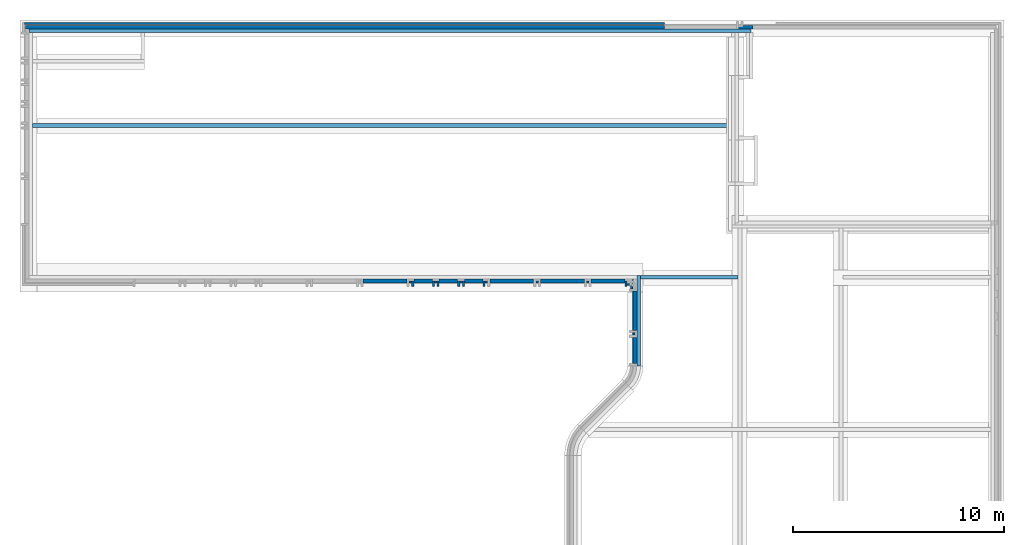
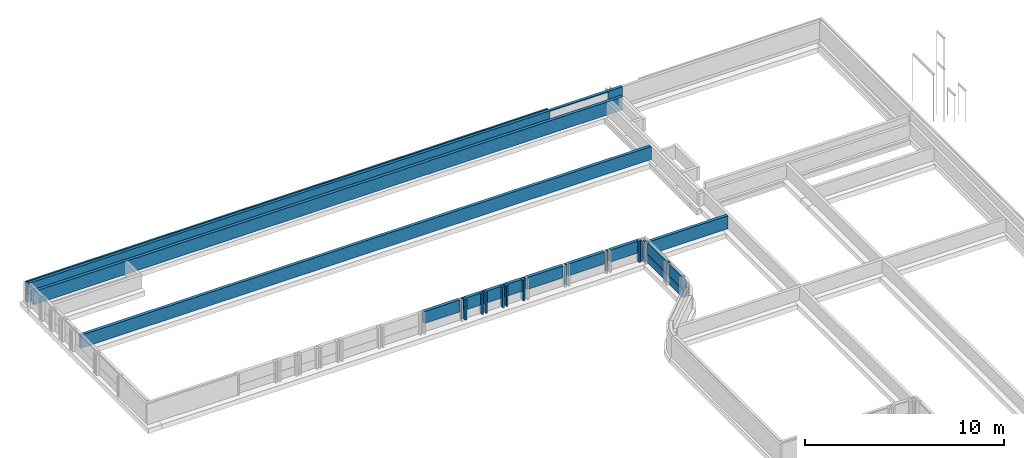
# One storey, part 7 of 15: 32 walls, 2 openings.
"""IFC2X3 building model written with IfcOpenShell, lengths in millimetres."""

import ifcopenshell
import ifcopenshell.guid

model = None  # the IFC model being written
_history = None  # IfcOwnerHistory: only IFC2X3 demands one
_inside = {}  # id of a spatial element -> (the spatial element, [elements in it])
_under = {}  # id of a project, library or spatial element -> (it, [spatial elements below it])
_declared = {}  # id of a project -> (the project, [libraries it declares])
_typed = {}  # id of a type object -> (the type object, [elements of that type])
_made_of = {}  # id of a material, layer set ... -> (it, [elements and type objects made of it])


def new_model(schema):
    """Start an empty IFC model of exactly this schema.

    Asked for "IFC4X3", IfcOpenShell would pick the latest addendum, in which some entities
    have other attributes; the version numbers below select the first issue.
    IFC2X3 requires an IfcOwnerHistory on every rooted entity: one is made here for all.
    """
    global model, _history
    if schema == "IFC4X3":
        model = ifcopenshell.file(schema_version=(4, 3, 0, 0))
    else:
        model = ifcopenshell.file(schema=schema)
    _inside.clear()
    _under.clear()
    _declared.clear()
    _typed.clear()
    _made_of.clear()
    _history = None
    if model.schema == "IFC2X3":
        org = make("IfcOrganization", Name="unknown")
        user = make(
            "IfcPersonAndOrganization",
            ThePerson=make("IfcPerson", FamilyName="unknown"),
            TheOrganization=org,
        )
        app = make(
            "IfcApplication",
            ApplicationDeveloper=org,
            Version="unknown",
            ApplicationFullName="unknown",
            ApplicationIdentifier="unknown",
        )
        _history = make(
            "IfcOwnerHistory",
            OwningUser=user,
            OwningApplication=app,
            ChangeAction="ADDED",
            CreationDate=0,
        )
    return model


def make(cls, **values):
    """One entity of the class cls with the attributes given. An attribute that is None is left unset."""
    return model.create_entity(
        cls, **{name: value for name, value in values.items() if value is not None}
    )


def entity(cls, *values):
    """Any entity or typed value of the class cls, its attributes in the order of the schema. None: left unset."""
    e = model.create_entity(cls)
    for i, value in enumerate(values):
        if value is not None:
            e[i] = value
    return e


def rooted(cls, **values):
    """An entity with a GlobalId (a new one), such as an element, a storey or a relation."""
    return make(cls, GlobalId=ifcopenshell.guid.new(), OwnerHistory=_history, **values)


def si_unit(unit_type, name, prefix=None):
    """IfcSIUnit, for example si_unit("LENGTHUNIT", "METRE", prefix="MILLI")."""
    return make("IfcSIUnit", UnitType=unit_type, Prefix=prefix, Name=name)


def converted_unit(unit_type, name, factor, base, dimensions=None, offset=None):
    """IfcConversionBasedUnit, such as the inch: factor (a typed value) times the base unit."""
    return make(
        "IfcConversionBasedUnit"
        if offset is None
        else "IfcConversionBasedUnitWithOffset",
        ConversionOffset=offset,
        Dimensions=None
        if dimensions is None
        else entity("IfcDimensionalExponents", *dimensions),
        UnitType=unit_type,
        Name=name,
        ConversionFactor=make(
            "IfcMeasureWithUnit", ValueComponent=factor, UnitComponent=base
        ),
    )


def derived_unit(unit_type, elements):
    """IfcDerivedUnit: a product of units, each with its exponent."""
    return make(
        "IfcDerivedUnit",
        Elements=[
            make("IfcDerivedUnitElement", Unit=unit, Exponent=power)
            for unit, power in elements
        ],
        UnitType=unit_type,
    )


def assignment(units):
    """IfcUnitAssignment: the units of a project."""
    return None if units is None else make("IfcUnitAssignment", Units=units)


def point(xyz):
    """IfcCartesianPoint."""
    return None if xyz is None else make("IfcCartesianPoint", Coordinates=xyz)


def direction(xyz):
    """IfcDirection."""
    return None if xyz is None else make("IfcDirection", DirectionRatios=xyz)


def frame(location, z_axis=None, x_axis=None):
    """IfcAxis2Placement3D, a coordinate frame: its origin and axes. An axis left out is left unset."""
    return make(
        "IfcAxis2Placement3D",
        Location=point(location),
        Axis=direction(z_axis),
        RefDirection=direction(x_axis),
    )


def frame_2d(location, x_axis=None):
    """IfcAxis2Placement2D, a coordinate frame in the plane: its origin and x axis."""
    return make(
        "IfcAxis2Placement2D", Location=point(location), RefDirection=direction(x_axis)
    )


def origin():
    """The frame at (0, 0, 0) with its axes left unset."""
    return frame((0.0, 0.0, 0.0))


def origin_2d_with_axis():
    """The frame at (0, 0) in the plane with the x axis (1, 0) written out."""
    return frame_2d((0.0, 0.0), x_axis=(1.0, 0.0))


def place(relative_to, where):
    """IfcLocalPlacement: puts the frame where relative to a parent placement (None: the world)."""
    return make(
        "IfcLocalPlacement", PlacementRelTo=relative_to, RelativePlacement=where
    )


def context(
    kind, dimensions, precision=None, world=None, true_north=None, identifier=None
):
    """IfcGeometricRepresentationContext, for example the 3D "Model" context."""
    return make(
        "IfcGeometricRepresentationContext",
        ContextIdentifier=identifier,
        ContextType=kind,
        CoordinateSpaceDimension=dimensions,
        Precision=precision,
        WorldCoordinateSystem=world,
        TrueNorth=true_north,
    )


def subcontext(parent, identifier, kind, view, scale=None):
    """IfcGeometricRepresentationSubContext, for example "Body" below "Model"."""
    return make(
        "IfcGeometricRepresentationSubContext",
        ContextIdentifier=identifier,
        ContextType=kind,
        ParentContext=parent,
        TargetScale=scale,
        TargetView=view,
    )


def project(units=None, contexts=None):
    """IfcProject with its units and contexts."""
    return rooted(
        "IfcProject",
        Name="project",
        RepresentationContexts=contexts,
        UnitsInContext=assignment(units),
    )


def spatial(cls, under=None, at=None, **own):
    """A site, building, storey or space (cls), placed at a placement, below another one or the project."""
    s = rooted(cls, ObjectPlacement=at, **own)
    if under is not None:
        _under.setdefault(under.id(), (under, []))[1].append(s)
    return s


def profile(cls, at=None, kind="AREA", **sizes):
    """A parametric profile (cls). Its sizes go by their IFC names, for example OverallWidth=200.0."""
    return make(cls, ProfileType=kind, Position=at, **sizes)


def rectangle(**sizes):
    """IfcRectangleProfileDef."""
    return profile("IfcRectangleProfileDef", **sizes)


def extrude(swept, where, along, depth):
    """IfcExtrudedAreaSolid: the profile swept, set in the frame where, extruded along a direction by depth."""
    return make(
        "IfcExtrudedAreaSolid",
        SweptArea=swept,
        Position=where,
        ExtrudedDirection=direction(along),
        Depth=depth,
    )


def shape(context_of_items, identifier, shape_type, items):
    """IfcShapeRepresentation: the items that make up one representation, for example the "Body"."""
    return make(
        "IfcShapeRepresentation",
        ContextOfItems=context_of_items,
        RepresentationIdentifier=identifier,
        RepresentationType=shape_type,
        Items=items,
    )


def material(Name=None, Category=None):
    """IfcMaterial."""
    return make("IfcMaterial", Name=Name, Category=Category)


def layer(
    of_material, thickness, ventilated=None, Name=None, Category=None, Priority=None
):
    """IfcMaterialLayer: one layer of a wall or slab, of a material (None: an air gap)."""
    return make(
        "IfcMaterialLayer",
        Material=of_material,
        LayerThickness=thickness,
        IsVentilated=ventilated,
        Name=Name,
        Category=Category,
        Priority=Priority,
    )


def layer_set(layers, Name=None):
    """IfcMaterialLayerSet."""
    return make("IfcMaterialLayerSet", MaterialLayers=layers, LayerSetName=Name)


def layer_usage(for_layer_set, set_direction, sense, offset, extent=None):
    """IfcMaterialLayerSetUsage: how a layer set lies in its element."""
    return make(
        "IfcMaterialLayerSetUsage",
        ForLayerSet=for_layer_set,
        LayerSetDirection=set_direction,
        DirectionSense=sense,
        OffsetFromReferenceLine=offset,
        ReferenceExtent=extent,
    )


def made_of(thing, what):
    """Note that an element or type object is made of a material, layer set ...; save() writes the relation."""
    if what is not None:
        _made_of.setdefault(what.id(), (what, []))[1].append(thing)
    return thing


def type_object(cls, material=None, **own):
    """A type object (cls), such as IfcWallType, which elements share."""
    return made_of(rooted(cls, **own), material)


def element(
    cls,
    number,
    at=None,
    inside=None,
    cuts=None,
    type_object=None,
    material=None,
    context=None,
    identifier="Body",
    shape_type=None,
    held_by="IfcProductDefinitionShape",
    body=None,
    shapes=None,
    **own,
):
    """One element of the class cls, such as IfcWall. Its Tag is "e" and its number.

    at: its placement. inside: the storey or other place that contains it. cuts: it is an
    opening in that element (IfcRelVoidsElement). A single representation is given by context,
    identifier, shape_type and body (its items); several are given by shapes. held_by: the class
    of the entity that holds the representations. save() writes the other relations.
    """
    e = rooted(cls, Tag="e%d" % number, ObjectPlacement=at, **own)
    if body is not None:
        shapes = [shape(context, identifier, shape_type, body)]
    if shapes is not None:
        e.Representation = make(held_by, Representations=shapes)
    if inside is not None:
        _inside.setdefault(inside.id(), (inside, []))[1].append(e)
    if cuts is not None:
        rooted(
            "IfcRelVoidsElement", RelatingBuildingElement=cuts, RelatedOpeningElement=e
        )
    if type_object is not None:
        _typed.setdefault(type_object.id(), (type_object, []))[1].append(e)
    return made_of(e, material)


def aggregate(whole, parts):
    """IfcRelAggregates: a whole, such as a stair, and the parts it consists of."""
    return rooted("IfcRelAggregates", RelatingObject=whole, RelatedObjects=parts)


def save(model, path):
    """Write the relations noted so far, then the file.

    IfcRelAggregates (storeys below a building ...), IfcRelContainedInSpatialStructure (elements
    in a storey), IfcRelDefinesByType, IfcRelAssociatesMaterial and IfcRelDeclares: one each for
    every whole, place, type object, material and project.
    """
    for whole, parts in _under.values():
        aggregate(whole, parts)
    for where, things in _inside.values():
        rooted(
            "IfcRelContainedInSpatialStructure",
            RelatedElements=things,
            RelatingStructure=where,
        )
    for kind, things in _typed.values():
        rooted("IfcRelDefinesByType", RelatedObjects=things, RelatingType=kind)
    for what, things in _made_of.values():
        rooted("IfcRelAssociatesMaterial", RelatedObjects=things, RelatingMaterial=what)
    for by, libraries in _declared.values():
        rooted("IfcRelDeclares", RelatingContext=by, RelatedDefinitions=libraries)
    model.write(path)


model = new_model("IFC2X3")

# Units and contexts
model_context = context("Model", 3, precision=0.01, world=origin(), true_north=direction((6.123031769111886e-17, 1.0)))
body_context = subcontext(model_context, "Body", "Model", "MODEL_VIEW")
ifc_project = project(units=[si_unit("LENGTHUNIT", "METRE", prefix="MILLI"), si_unit("AREAUNIT", "SQUARE_METRE"), si_unit("VOLUMEUNIT", "CUBIC_METRE"), converted_unit("PLANEANGLEUNIT", "DEGREE", entity("IfcRatioMeasure", 0.017453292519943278), si_unit("PLANEANGLEUNIT", "RADIAN"), dimensions=[0, 0, 0, 0, 0, 0, 0]), si_unit("MASSUNIT", "GRAM", prefix="KILO"), derived_unit("MASSDENSITYUNIT", [(si_unit("MASSUNIT", "GRAM", prefix="KILO"), 1), (si_unit("LENGTHUNIT", "METRE"), -3)]), derived_unit("IONCONCENTRATIONUNIT", [(si_unit("MASSUNIT", "GRAM", prefix="KILO"), 1), (si_unit("LENGTHUNIT", "METRE"), -3)]), derived_unit("MOMENTOFINERTIAUNIT", [(si_unit("LENGTHUNIT", "METRE"), 4)]), si_unit("TIMEUNIT", "SECOND"), si_unit("FREQUENCYUNIT", "HERTZ"), si_unit("THERMODYNAMICTEMPERATUREUNIT", "DEGREE_CELSIUS"), derived_unit("THERMALTRANSMITTANCEUNIT", [(si_unit("MASSUNIT", "GRAM", prefix="KILO"), 1), (si_unit("THERMODYNAMICTEMPERATUREUNIT", "KELVIN"), -1), (si_unit("TIMEUNIT", "SECOND"), -3)]), derived_unit("THERMALCONDUCTANCEUNIT", [(si_unit("MASSUNIT", "GRAM", prefix="KILO"), 1), (si_unit("THERMODYNAMICTEMPERATUREUNIT", "KELVIN"), -1), (si_unit("TIMEUNIT", "SECOND"), -3), (si_unit("LENGTHUNIT", "METRE"), 1)]), derived_unit("VOLUMETRICFLOWRATEUNIT", [(si_unit("LENGTHUNIT", "METRE"), 3), (si_unit("TIMEUNIT", "SECOND"), -1)]), derived_unit("MASSFLOWRATEUNIT", [(si_unit("MASSUNIT", "GRAM", prefix="KILO"), 1), (si_unit("TIMEUNIT", "SECOND"), -1)]), derived_unit("ROTATIONALFREQUENCYUNIT", [(si_unit("TIMEUNIT", "SECOND"), -1)]), si_unit("ELECTRICCURRENTUNIT", "AMPERE"), si_unit("ELECTRICVOLTAGEUNIT", "VOLT"), si_unit("POWERUNIT", "WATT"), si_unit("FORCEUNIT", "NEWTON", prefix="KILO"), si_unit("ILLUMINANCEUNIT", "LUX"), si_unit("LUMINOUSFLUXUNIT", "LUMEN"), si_unit("LUMINOUSINTENSITYUNIT", "CANDELA"), derived_unit("USERDEFINED", [(si_unit("MASSUNIT", "GRAM", prefix="KILO"), -1), (si_unit("LENGTHUNIT", "METRE"), -2), (si_unit("TIMEUNIT", "SECOND"), 3), (si_unit("LUMINOUSFLUXUNIT", "LUMEN"), 1)]), derived_unit("USERDEFINED", [(si_unit("MASSUNIT", "GRAM", prefix="KILO"), 1), (si_unit("TIMEUNIT", "SECOND"), -3), (si_unit("LENGTHUNIT", "METRE"), 3), (si_unit("ELECTRICCURRENTUNIT", "AMPERE"), -2)]), derived_unit("SOUNDPOWERUNIT", [(si_unit("MASSUNIT", "GRAM", prefix="KILO"), 1), (si_unit("TIMEUNIT", "SECOND"), -3), (si_unit("LENGTHUNIT", "METRE"), 2)]), derived_unit("SOUNDPRESSUREUNIT", [(si_unit("MASSUNIT", "GRAM", prefix="KILO"), 1), (si_unit("LENGTHUNIT", "METRE"), -1), (si_unit("TIMEUNIT", "SECOND"), -2)]), derived_unit("LINEARVELOCITYUNIT", [(si_unit("LENGTHUNIT", "METRE"), 1), (si_unit("TIMEUNIT", "SECOND"), -1)]), si_unit("PRESSUREUNIT", "PASCAL"), derived_unit("USERDEFINED", [(si_unit("MASSUNIT", "GRAM", prefix="KILO"), 1), (si_unit("LENGTHUNIT", "METRE"), -2), (si_unit("TIMEUNIT", "SECOND"), -2)]), derived_unit("LINEARFORCEUNIT", [(si_unit("MASSUNIT", "GRAM", prefix="KILO"), 1), (si_unit("TIMEUNIT", "SECOND"), -2)]), derived_unit("PLANARFORCEUNIT", [(si_unit("MASSUNIT", "GRAM", prefix="KILO"), 1), (si_unit("LENGTHUNIT", "METRE"), -1), (si_unit("TIMEUNIT", "SECOND"), -2)]), derived_unit("SPECIFICHEATCAPACITYUNIT", [(si_unit("THERMODYNAMICTEMPERATUREUNIT", "KELVIN"), -1), (si_unit("LENGTHUNIT", "METRE"), 2), (si_unit("TIMEUNIT", "SECOND"), -2)]), derived_unit("HEATINGVALUEUNIT", [(si_unit("LENGTHUNIT", "METRE"), 2), (si_unit("TIMEUNIT", "SECOND"), -2)]), derived_unit("VAPORPERMEABILITYUNIT", [(si_unit("LENGTHUNIT", "METRE"), -1), (si_unit("TIMEUNIT", "SECOND"), 1)]), derived_unit("DYNAMICVISCOSITYUNIT", [(si_unit("MASSUNIT", "GRAM", prefix="KILO"), 1), (si_unit("TIMEUNIT", "SECOND"), -1), (si_unit("LENGTHUNIT", "METRE"), -1)]), derived_unit("THERMALEXPANSIONCOEFFICIENTUNIT", [(si_unit("THERMODYNAMICTEMPERATUREUNIT", "KELVIN"), -1)]), derived_unit("MODULUSOFELASTICITYUNIT", [(si_unit("MASSUNIT", "GRAM", prefix="KILO"), 1), (si_unit("LENGTHUNIT", "METRE"), -1), (si_unit("TIMEUNIT", "SECOND"), -2)]), derived_unit("ISOTHERMALMOISTURECAPACITYUNIT", [(si_unit("LENGTHUNIT", "METRE"), 3), (si_unit("MASSUNIT", "GRAM", prefix="KILO"), -1)]), derived_unit("MOISTUREDIFFUSIVITYUNIT", [(si_unit("TIMEUNIT", "SECOND"), -1), (si_unit("LENGTHUNIT", "METRE"), 2)])], contexts=[model_context])

# Site, building, storey
site_placement = place(None, frame((0.0, 300.0, 0.0)))
site = spatial("IfcSite", under=ifc_project, at=site_placement, Name="<Kadastrale nummers>", CompositionType="ELEMENT")
building_placement = place(site_placement, origin())
building = spatial("IfcBuilding", under=site, at=building_placement, CompositionType="ELEMENT")
storey_placement = place(building_placement, frame((0.0, 0.0, -1570.0)))
storey = spatial("IfcBuildingStorey", under=building, at=storey_placement, Name="-1 fundering", CompositionType="ELEMENT", Elevation=-1570.0)

# Walls
ifc_material_1 = material(Name="ISR_Metselwerk")
ifc_layer_1 = layer(ifc_material_1, 100.0)
ifc_layer_set_1 = layer_set([ifc_layer_1], Name="Basic Wall:21_DAT_metselwerk_100")
ifc_layer_usage_1 = layer_usage(ifc_layer_set_1, "AXIS2", "POSITIVE", -50.0)
wall_type_1 = type_object("IfcWallType", Name="Basic Wall:21_DAT_metselwerk_100", PredefinedType="STANDARD", material=ifc_layer_set_1)
wall_1_placement = place(storey_placement, frame((31255.0, 37775.0, 300.0)))
element("IfcWallStandardCase", 1, at=wall_1_placement, inside=storey, type_object=wall_type_1, material=ifc_layer_usage_1, Name="Basic Wall:21_DAT_metselwerk_100", ObjectType="Basic Wall:21_DAT_metselwerk_100", context=body_context, shape_type="SweptSolid", body=[
    extrude(rectangle(XDim=120.00000000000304, YDim=100.00000000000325, at=frame_2d((60.00000000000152, 8.135714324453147e-13), x_axis=(-1.0, 0.0))), origin(), (0.0, 0.0, 1.0), 1270.0000000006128),
])
ifc_layer_usage_2 = layer_usage(ifc_layer_set_1, "AXIS2", "NEGATIVE", 50.0)
wall_2_placement = place(storey_placement, frame((31475.036916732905, 37555.0, 299.99997543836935), z_axis=(0.0, 0.0, 1.0), x_axis=(0.0, 1.0, 0.0)))
element("IfcWallStandardCase", 2, at=wall_2_placement, inside=storey, type_object=wall_type_1, material=ifc_layer_usage_2, Name="Basic Wall:21_DAT_metselwerk_100", ObjectType="Basic Wall:21_DAT_metselwerk_100", context=body_context, shape_type="SweptSolid", body=[
    extrude(rectangle(XDim=170.00000000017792, YDim=100.00000000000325, at=frame_2d((85.00000000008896, 0.0), x_axis=(-1.0, 0.0))), origin(), (0.0, 0.0, 1.0), 1270.000024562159),
])
wall_3_placement = place(storey_placement, frame((33030.0, 50125.0, 300.0), z_axis=(0.0, 0.0, 1.0), x_axis=(-1.0, 0.0, 0.0)))
element("IfcWallStandardCase", 3, at=wall_3_placement, inside=storey, type_object=wall_type_1, material=ifc_layer_usage_1, Name="Basic Wall:21_DAT_metselwerk_100", ObjectType="Basic Wall:21_DAT_metselwerk_100", context=body_context, shape_type="SweptSolid", body=[
    extrude(rectangle(XDim=30304.999999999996, YDim=99.9999999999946, at=frame_2d((15152.499999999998, -7.815970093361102e-14), x_axis=(-1.0, 0.0))), origin(), (0.0, 0.0, 1.0), 1270.0000000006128),
])
for number, where, name in (
    (4, (20940.0, 37890.0, 300.0), "Basic Wall:21_DAT_metselwerk_100"),
    (5, (22140.0, 37890.0, 300.0), "Basic Wall:21_DAT_metselwerk_100"),
    (6, (23340.0, 37890.0, 300.0), "Basic Wall:21_DAT_metselwerk_100"),
    (7, (24540.0, 37890.0, 300.0), "Basic Wall:21_DAT_metselwerk_100"),
    (8, (26940.0, 37890.0, 300.0), "Basic Wall:21_DAT_metselwerk_100"),
    (9, (29340.0, 37890.0, 300.0), "Basic Wall:21_DAT_metselwerk_100"),
):
    element("IfcWallStandardCase", number, at=place(storey_placement, frame(where)), inside=storey, type_object=wall_type_1, material=ifc_layer_usage_1, Name=name, ObjectType="Basic Wall:21_DAT_metselwerk_100", context=body_context, shape_type="SweptSolid", body=[
        extrude(rectangle(XDim=120.00000000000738, YDim=100.00000000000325, at=frame_2d((60.00000000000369, 0.0), x_axis=(-1.0, 0.0))), origin(), (0.0, 0.0, 1.0), 1270.0000000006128),
    ])
wall_4_placement = place(storey_placement, frame((31590.0, 35485.0, 300.0), z_axis=(0.0, 0.0, 1.0), x_axis=(0.0, -1.0, 0.0)))
element("IfcWallStandardCase", 10, at=wall_4_placement, inside=storey, type_object=wall_type_1, material=ifc_layer_usage_1, Name="Basic Wall:21_DAT_metselwerk_100", ObjectType="Basic Wall:21_DAT_metselwerk_100", context=body_context, shape_type="SweptSolid", body=[
    extrude(rectangle(XDim=120.00000000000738, YDim=100.00000000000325, at=frame_2d((60.00000000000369, 3.836930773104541e-13), x_axis=(-1.0, 0.0))), origin(), (0.0, 0.0, 1.0), 1270.0000000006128),
])
wall_5_placement = place(storey_placement, frame((21110.0, 37940.0, 300.0), z_axis=(0.0, 0.0, 1.0), x_axis=(0.0, -1.0, 0.0)))
element("IfcWallStandardCase", 11, at=wall_5_placement, inside=storey, type_object=wall_type_1, material=ifc_layer_usage_2, Name="Basic Wall:21_DAT_metselwerk_100", ObjectType="Basic Wall:21_DAT_metselwerk_100", context=body_context, shape_type="SweptSolid", body=[
    extrude(rectangle(XDim=264.9999999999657, YDim=100.00000000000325, at=frame_2d((132.49999999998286, 1.0054179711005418e-12), x_axis=(-1.0, 0.0))), origin(), (0.0, 0.0, 1.0), 1270.0000000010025),
])
wall_6_placement = place(storey_placement, frame((22090.0, 37940.0, 300.0), z_axis=(0.0, 0.0, 1.0), x_axis=(0.0, -1.0, 0.0)))
element("IfcWallStandardCase", 12, at=wall_6_placement, inside=storey, type_object=wall_type_1, material=ifc_layer_usage_2, Name="Basic Wall:21_DAT_metselwerk_100", ObjectType="Basic Wall:21_DAT_metselwerk_100", context=body_context, shape_type="SweptSolid", body=[
    extrude(rectangle(XDim=264.9999999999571, YDim=100.00000000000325, at=frame_2d((132.49999999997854, -9.841016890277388e-13), x_axis=(-1.0, 0.0))), origin(), (0.0, 0.0, 1.0), 1270.0000000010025),
])
wall_7_placement = place(storey_placement, frame((22310.0, 37940.0, 300.0), z_axis=(0.0, 0.0, 1.0), x_axis=(0.0, -1.0, 0.0)))
element("IfcWallStandardCase", 13, at=wall_7_placement, inside=storey, type_object=wall_type_1, material=ifc_layer_usage_2, Name="Basic Wall:21_DAT_metselwerk_100", ObjectType="Basic Wall:21_DAT_metselwerk_100", context=body_context, shape_type="SweptSolid", body=[
    extrude(rectangle(XDim=264.9999999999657, YDim=100.00000000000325, at=frame_2d((132.49999999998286, 1.0054179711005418e-12), x_axis=(-1.0, 0.0))), origin(), (0.0, 0.0, 1.0), 1270.0000000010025),
])
wall_8_placement = place(storey_placement, frame((23290.0, 37940.0, 300.0), z_axis=(0.0, 0.0, 1.0), x_axis=(0.0, -1.0, 0.0)))
element("IfcWallStandardCase", 14, at=wall_8_placement, inside=storey, type_object=wall_type_1, material=ifc_layer_usage_2, Name="Basic Wall:21_DAT_metselwerk_100", ObjectType="Basic Wall:21_DAT_metselwerk_100", context=body_context, shape_type="SweptSolid", body=[
    extrude(rectangle(XDim=264.9999999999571, YDim=100.00000000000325, at=frame_2d((132.49999999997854, -9.841016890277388e-13), x_axis=(-1.0, 0.0))), origin(), (0.0, 0.0, 1.0), 1270.0000000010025),
])
wall_9_placement = place(storey_placement, frame((23510.0, 37940.0, 300.0), z_axis=(0.0, 0.0, 1.0), x_axis=(0.0, -1.0, 0.0)))
element("IfcWallStandardCase", 15, at=wall_9_placement, inside=storey, type_object=wall_type_1, material=ifc_layer_usage_2, Name="Basic Wall:21_DAT_metselwerk_100", ObjectType="Basic Wall:21_DAT_metselwerk_100", context=body_context, shape_type="SweptSolid", body=[
    extrude(rectangle(XDim=264.9999999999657, YDim=100.00000000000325, at=frame_2d((132.49999999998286, 1.0054179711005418e-12), x_axis=(-1.0, 0.0))), origin(), (0.0, 0.0, 1.0), 1270.0000000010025),
])
for number, where, z_axis, x_axis, name in (
    (16, (24490.0, 37940.0, 300.0), (0.0, 0.0, 1.0), (0.0, -1.0, 0.0), "Basic Wall:21_DAT_metselwerk_100"),
    (17, (31205.0, 37940.0, 300.0), (0.0, 0.0, 1.0), (0.0, -1.0, 0.0), "Basic Wall:21_DAT_metselwerk_100"),
):
    element("IfcWallStandardCase", number, at=place(storey_placement, frame(where, z_axis=z_axis, x_axis=x_axis)), inside=storey, type_object=wall_type_1, material=ifc_layer_usage_2, Name=name, ObjectType="Basic Wall:21_DAT_metselwerk_100", context=body_context, shape_type="SweptSolid", body=[
        extrude(rectangle(XDim=264.9999999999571, YDim=100.00000000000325, at=frame_2d((132.49999999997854, -9.841016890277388e-13), x_axis=(-1.0, 0.0))), origin(), (0.0, 0.0, 1.0), 1270.0000000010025),
    ])
ifc_material_2 = material(Name="ISR_Gips")
ifc_layer_2 = layer(ifc_material_2, 1.0)
ifc_material_3 = material(Name="ISR_Kalkzandsteen")
ifc_layer_3 = layer(ifc_material_3, 173.0)
ifc_layer_4 = layer(ifc_material_2, 1.0)
ifc_layer_set_2 = layer_set([ifc_layer_2, ifc_layer_3, ifc_layer_4], Name="Basic Wall:28_DAT_kalkzandsteen_175mm")
ifc_layer_usage_3 = layer_usage(ifc_layer_set_2, "AXIS2", "NEGATIVE", 87.49999999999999)
wall_type_2 = type_object("IfcWallType", Name="Basic Wall:28_DAT_kalkzandsteen_175mm", PredefinedType="STANDARD", material=ifc_layer_set_2)
wall_10_placement = place(storey_placement, frame((2925.0, 49787.50000000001, 300.0)))
element("IfcWallStandardCase", 18, at=wall_10_placement, inside=storey, type_object=wall_type_2, material=ifc_layer_usage_3, Name="Basic Wall:28_DAT_kalkzandsteen_175mm", ObjectType="Basic Wall:28_DAT_kalkzandsteen_175mm", context=body_context, shape_type="SweptSolid", body=[
    extrude(rectangle(XDim=34222.539937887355, YDim=174.99999999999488, at=frame_2d((17111.269968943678, -1.4210854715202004e-13), x_axis=(-1.0, 0.0))), origin(), (0.0, 0.0, 1.0), 800.0000000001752),
])
wall_11_placement = place(storey_placement, frame((31812.536916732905, 33911.90316893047, 300.0), z_axis=(0.0, 0.0, 1.0), x_axis=(0.0, 1.0, 0.0)))
element("IfcWallStandardCase", 19, at=wall_11_placement, inside=storey, type_object=wall_type_2, material=ifc_layer_usage_3, Name="Basic Wall:28_DAT_kalkzandsteen_175mm", ObjectType="Basic Wall:28_DAT_kalkzandsteen_175mm", context=body_context, shape_type="SweptSolid", body=[
    extrude(rectangle(XDim=4288.096831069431, YDim=175.00000000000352, at=frame_2d((2144.0484155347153, 1.8474111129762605e-13), x_axis=(-1.0, 0.0))), origin(), (0.0, 0.0, 1.0), 800.0000000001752),
])
wall_12_placement = place(storey_placement, frame((3100.0, 45300.0, 300.0)))
element("IfcWallStandardCase", 20, at=wall_12_placement, inside=storey, type_object=wall_type_2, material=ifc_layer_usage_3, Name="Basic Wall:28_DAT_kalkzandsteen_175mm", ObjectType="Basic Wall:28_DAT_kalkzandsteen_175mm", context=body_context, shape_type="SweptSolid", body=[
    extrude(rectangle(XDim=33120.03993788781, YDim=174.99999999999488, at=frame_2d((16560.019968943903, 2.1316282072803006e-14), x_axis=(-1.0, 0.0))), origin(), (0.0, 0.0, 1.0), 800.0000000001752),
])
wall_13_placement = place(storey_placement, frame((31905.0, 38112.49999999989, 300.0)))
element("IfcWallStandardCase", 21, at=wall_13_placement, inside=storey, type_object=wall_type_2, material=ifc_layer_usage_3, Name="Basic Wall:28_DAT_kalkzandsteen_175mm", ObjectType="Basic Wall:28_DAT_kalkzandsteen_175mm", context=body_context, shape_type="SweptSolid", body=[
    extrude(rectangle(XDim=4620.000000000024, YDim=175.00000000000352, at=frame_2d((2310.000000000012, 7.531752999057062e-13), x_axis=(-1.0, 0.0))), origin(), (0.0, 0.0, 1.0), 800.0000000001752),
])

# Wall, openings
ifc_material_4 = material(Name="ISR_Isolatie")
ifc_layer_5 = layer(ifc_material_4, 160.0)
ifc_layer_set_3 = layer_set([ifc_layer_5], Name="Basic Wall:21_DAT_isolatie minerale wol_160")
ifc_layer_usage_4 = layer_usage(ifc_layer_set_3, "AXIS2", "NEGATIVE", 80.0)
wall_type_3 = type_object("IfcWallType", Name="Basic Wall:21_DAT_isolatie minerale wol_160", PredefinedType="STANDARD", material=ifc_layer_set_3)
wall_14_placement = place(storey_placement, frame((2765.0, 49955.0, 900.0)))
wall_14 = element("IfcWallStandardCase", 22, at=wall_14_placement, inside=storey, type_object=wall_type_3, material=ifc_layer_usage_4, Name="Basic Wall:21_DAT_isolatie minerale wol_160", ObjectType="Basic Wall:21_DAT_isolatie minerale wol_160", context=body_context, shape_type="SweptSolid", body=[
    extrude(rectangle(XDim=34470.00000000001, YDim=159.99999999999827, at=frame_2d((17235.000000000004, -1.3073986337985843e-12), x_axis=(1.0, 0.0))), origin(), (0.0, 0.0, 1.0), 680.0000000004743),
])
opening_1_placement = place(wall_14_placement, origin())
element("IfcOpeningElement", 23, at=opening_1_placement, cuts=wall_14, Name="Basic Wall:21_DAT_isolatie minerale wol_160", ObjectType="Opening", context=body_context, shape_type="SweptSolid", body=[
    extrude(rectangle(XDim=730.0000000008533, YDim=3409.99999999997, at=origin_2d_with_axis()), frame((31970.0, -232.39999999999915, 265.0), z_axis=(0.0, 1.0, 0.0), x_axis=(0.0, 0.0, 1.0)), (0.0, 0.0, 1.0), 464.7999999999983),
])
opening_2_placement = place(wall_14_placement, origin())
element("IfcOpeningElement", 24, at=opening_2_placement, cuts=wall_14, Name="Basic Wall:21_DAT_isolatie minerale wol_160", ObjectType="Opening", context=body_context, shape_type="SweptSolid", body=[
    extrude(rectangle(XDim=2630.0, YDim=3450.000000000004, at=frame_2d((0.0, 0.0), x_axis=(0.0, 1.0))), frame((31970.0, -232.39999999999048, 1995.0), z_axis=(0.0, 1.0, 0.0), x_axis=(-1.0, 0.0, 0.0)), (0.0, 0.0, 1.0), 464.7999999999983),
])

# Walls
ifc_material_5 = material(Name="ISR_Beton_prefab")
ifc_layer_6 = layer(ifc_material_5, 15.0)
ifc_layer_7 = layer(ifc_material_4, 175.0)
ifc_layer_set_4 = layer_set([ifc_layer_6, ifc_layer_7], Name="Basic Wall:21_DAT_gevelplint 175")
ifc_layer_usage_5 = layer_usage(ifc_layer_set_4, "AXIS2", "POSITIVE", -95.00000000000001)
wall_type_4 = type_object("IfcWallType", Name="Basic Wall:21_DAT_gevelplint 175", PredefinedType="STANDARD", material=ifc_layer_set_4)
wall_15_placement = place(storey_placement, frame((31630.03691673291, 37455.0, 800.0), z_axis=(0.0, 0.0, 1.0), x_axis=(0.0, -1.0, 0.0)))
element("IfcWallStandardCase", 25, at=wall_15_placement, inside=storey, type_object=wall_type_4, material=ifc_layer_usage_5, Name="Basic Wall:21_DAT_gevelplint 175", ObjectType="Basic Wall:21_DAT_gevelplint 175", context=body_context, shape_type="SweptSolid", body=[
    extrude(rectangle(XDim=1870.0000000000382, YDim=190.0000000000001, at=frame_2d((935.0000000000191, 0.0), x_axis=(-1.0, 0.0))), origin(), (0.0, 0.0, 1.0), 730.0000000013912),
])
wall_16_placement = place(storey_placement, frame((18760.0, 37930.0, 800.0)))
element("IfcWallStandardCase", 26, at=wall_16_placement, inside=storey, type_object=wall_type_4, material=ifc_layer_usage_5, Name="Basic Wall:21_DAT_gevelplint 175", ObjectType="Basic Wall:21_DAT_gevelplint 175", context=body_context, shape_type="SweptSolid", body=[
    extrude(rectangle(XDim=2080.0000000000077, YDim=190.0000000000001, at=frame_2d((1040.0000000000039, 0.0), x_axis=(-1.0, 0.0))), origin(), (0.0, 0.0, 1.0), 730.0000000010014),
])
wall_17_placement = place(storey_placement, frame((24760.0, 37930.0, 800.0)))
element("IfcWallStandardCase", 27, at=wall_17_placement, inside=storey, type_object=wall_type_4, material=ifc_layer_usage_5, Name="Basic Wall:21_DAT_gevelplint 175", ObjectType="Basic Wall:21_DAT_gevelplint 175", context=body_context, shape_type="SweptSolid", body=[
    extrude(rectangle(XDim=2079.999999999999, YDim=190.0000000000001, at=frame_2d((1039.9999999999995, 1.2647660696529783e-12), x_axis=(-1.0, 0.0))), origin(), (0.0, 0.0, 1.0), 730.0000000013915),
])
wall_18_placement = place(storey_placement, frame((29560.0, 37930.0, 800.0)))
element("IfcWallStandardCase", 28, at=wall_18_placement, inside=storey, type_object=wall_type_4, material=ifc_layer_usage_5, Name="Basic Wall:21_DAT_gevelplint 175", ObjectType="Basic Wall:21_DAT_gevelplint 175", context=body_context, shape_type="SweptSolid", body=[
    extrude(rectangle(XDim=1594.9999999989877, YDim=190.0000000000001, at=frame_2d((797.4999999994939, -5.044853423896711e-13), x_axis=(-1.0, 0.0))), origin(), (0.0, 0.0, 1.0), 725.0000000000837),
])
wall_19_placement = place(storey_placement, frame((27160.0, 37930.0, 800.0)))
element("IfcWallStandardCase", 29, at=wall_19_placement, inside=storey, type_object=wall_type_4, material=ifc_layer_usage_5, Name="Basic Wall:21_DAT_gevelplint 175", ObjectType="Basic Wall:21_DAT_gevelplint 175", context=body_context, shape_type="SweptSolid", body=[
    extrude(rectangle(XDim=2080.0000000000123, YDim=190.0000000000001, at=frame_2d((1040.0000000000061, 0.0), x_axis=(-1.0, 0.0))), origin(), (0.0, 0.0, 1.0), 730.0000000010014),
])
wall_20_placement = place(storey_placement, frame((31630.036916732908, 35265.0, 800.0), z_axis=(0.0, 0.0, 1.0), x_axis=(0.0, -1.0, 0.0)))
element("IfcWallStandardCase", 30, at=wall_20_placement, inside=storey, type_object=wall_type_4, material=ifc_layer_usage_5, Name="Basic Wall:21_DAT_gevelplint 175", ObjectType="Basic Wall:21_DAT_gevelplint 175", context=body_context, shape_type="SweptSolid", body=[
    extrude(rectangle(XDim=1241.9999999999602, YDim=190.0000000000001, at=frame_2d((620.9999999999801, 0.0), x_axis=(-1.0, 0.0))), origin(), (0.0, 0.0, 1.0), 725.0000000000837),
])
for number, where, name in (
    (31, (23560.0, 37930.0, 800.0), "Basic Wall:21_DAT_gevelplint 175"),
    (32, (22360.0, 37930.0, 800.0), "Basic Wall:21_DAT_gevelplint 175"),
    (33, (21160.0, 37930.0, 800.0), "Basic Wall:21_DAT_gevelplint 175"),
):
    element("IfcWallStandardCase", number, at=place(storey_placement, frame(where)), inside=storey, type_object=wall_type_4, material=ifc_layer_usage_5, Name=name, ObjectType="Basic Wall:21_DAT_gevelplint 175", context=body_context, shape_type="SweptSolid", body=[
        extrude(rectangle(XDim=879.9999999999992, YDim=190.0000000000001, at=frame_2d((439.9999999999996, 0.0), x_axis=(-1.0, 0.0))), origin(), (0.0, 0.0, 1.0), 725.0000000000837),
    ])
ifc_material_6 = material(Name="ISR_Speci ihwg(1)")
ifc_layer_8 = layer(ifc_material_6, 195.0)
ifc_layer_set_5 = layer_set([ifc_layer_8], Name="Basic Wall:28_DAT_ihw specie")
ifc_layer_usage_6 = layer_usage(ifc_layer_set_5, "AXIS2", "NEGATIVE", 97.5)
wall_type_5 = type_object("IfcWallType", Name="Basic Wall:28_DAT_ihw specie", PredefinedType="STANDARD", material=ifc_layer_set_5)
wall_21_placement = place(storey_placement, frame((31622.5369167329, 33911.90316893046, 300.0), z_axis=(0.0, 0.0, 1.0), x_axis=(0.0, 1.0, 0.0)))
element("IfcWallStandardCase", 34, at=wall_21_placement, inside=storey, type_object=wall_type_5, material=ifc_layer_usage_6, Name="Basic Wall:28_DAT_ihw specie", ObjectType="Basic Wall:28_DAT_ihw specie", context=body_context, shape_type="SweptSolid", body=[
    extrude(rectangle(XDim=4108.096831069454, YDim=194.99999999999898, at=frame_2d((2054.048415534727, 0.0), x_axis=(-1.0, 0.0))), origin(), (0.0, 0.0, 1.0), 500.00000000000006),
])

save(model, "model.ifc")
